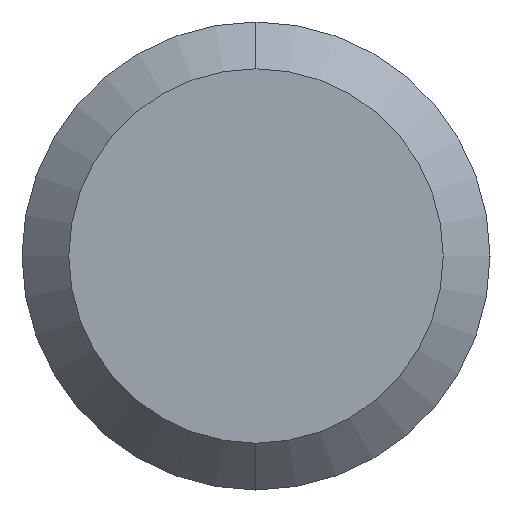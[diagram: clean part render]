
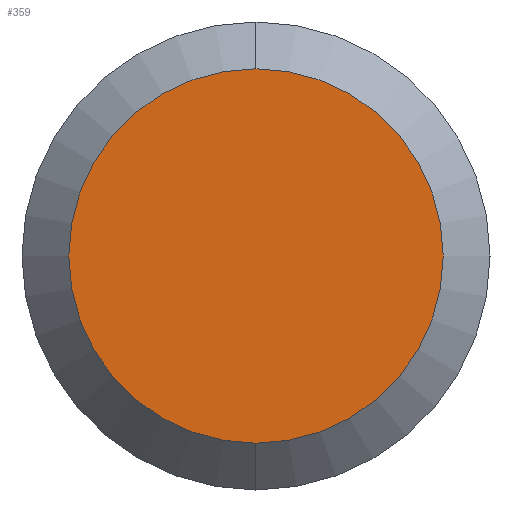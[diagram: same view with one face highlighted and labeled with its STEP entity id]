
A CAD part, left-side view. The second image highlights one B-rep face of the part: STEP entity #359.
In plain terms, the highlighted planar face has unit normal (-1, 0, 0).
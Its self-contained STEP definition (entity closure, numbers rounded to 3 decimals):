
#14 = DIRECTION ( 'NONE',  ( -1., 0., 0. ) ) ;
#23 = AXIS2_PLACEMENT_3D ( 'NONE', #219, #14, #365 ) ;
#26 = CARTESIAN_POINT ( 'NONE',  ( 0., 2.4, 0. ) ) ;
#62 = DIRECTION ( 'NONE',  ( -1., 0., 0. ) ) ;
#90 = CARTESIAN_POINT ( 'NONE',  ( 0., 0., -2.4 ) ) ;
#108 = AXIS2_PLACEMENT_3D ( 'NONE', #26, #440, #258 ) ;
#142 = VERTEX_POINT ( 'NONE', #175 ) ;
#163 = EDGE_CURVE ( 'NONE', #423, #142, #388, .T. ) ;
#166 = AXIS2_PLACEMENT_3D ( 'NONE', #414, #62, #228 ) ;
#170 = FACE_OUTER_BOUND ( 'NONE', #434, .T. ) ;
#175 = CARTESIAN_POINT ( 'NONE',  ( 0., 0., 2.4 ) ) ;
#179 = ORIENTED_EDGE ( 'NONE', *, *, #163, .T. ) ;
#219 = CARTESIAN_POINT ( 'NONE',  ( 0., 0., 0. ) ) ;
#228 = DIRECTION ( 'NONE',  ( 0., 0., 1. ) ) ;
#235 = PLANE ( 'NONE',  #108 ) ;
#258 = DIRECTION ( 'NONE',  ( 0., 0., -1. ) ) ;
#269 = ORIENTED_EDGE ( 'NONE', *, *, #393, .T. ) ;
#319 = CIRCLE ( 'NONE', #166, 2.4 ) ;
#359 = ADVANCED_FACE ( 'NONE', ( #170 ), #235, .F. ) ;
#365 = DIRECTION ( 'NONE',  ( 0., 0., 1. ) ) ;
#388 = CIRCLE ( 'NONE', #23, 2.4 ) ;
#393 = EDGE_CURVE ( 'NONE', #142, #423, #319, .T. ) ;
#414 = CARTESIAN_POINT ( 'NONE',  ( 0., 0., 0. ) ) ;
#423 = VERTEX_POINT ( 'NONE', #90 ) ;
#434 = EDGE_LOOP ( 'NONE', ( #179, #269 ) ) ;
#440 = DIRECTION ( 'NONE',  ( 1., 0., 0. ) ) ;
